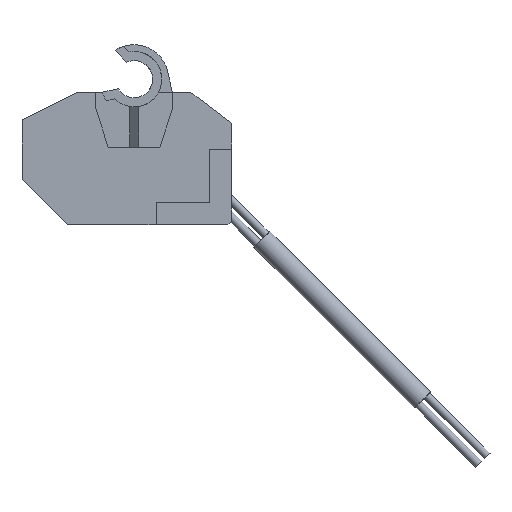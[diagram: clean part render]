
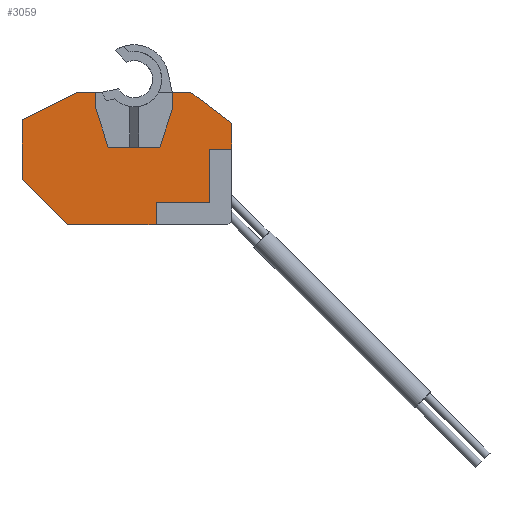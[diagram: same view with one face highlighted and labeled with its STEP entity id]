
A CAD part, left-side view. The second image highlights one B-rep face of the part: STEP entity #3059.
In plain terms, the highlighted planar face has unit normal (-1, 0, 0).
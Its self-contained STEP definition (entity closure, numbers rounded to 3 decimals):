
#44 = CARTESIAN_POINT ( 'NONE',  ( -3.35, 14.8, -1.75 ) ) ;
#59 = LINE ( 'NONE', #400, #2996 ) ;
#78 = VERTEX_POINT ( 'NONE', #2523 ) ;
#84 = VERTEX_POINT ( 'NONE', #1735 ) ;
#105 = CARTESIAN_POINT ( 'NONE',  ( -3.35, 5.05, -3.9 ) ) ;
#122 = EDGE_CURVE ( 'NONE', #3271, #2665, #2072, .T. ) ;
#167 = EDGE_CURVE ( 'NONE', #1215, #1021, #2358, .T. ) ;
#182 = CARTESIAN_POINT ( 'NONE',  ( -3.35, 14.8, -16.25 ) ) ;
#198 = LINE ( 'NONE', #1686, #2634 ) ;
#214 = CARTESIAN_POINT ( 'NONE',  ( -3.35, 14.8, -19.25 ) ) ;
#220 = ORIENTED_EDGE ( 'NONE', *, *, #1146, .F. ) ;
#232 = CARTESIAN_POINT ( 'NONE',  ( -3.35, 14.8, -1.75 ) ) ;
#236 = LINE ( 'NONE', #2712, #1518 ) ;
#248 = FACE_OUTER_BOUND ( 'NONE', #3285, .T. ) ;
#305 = VERTEX_POINT ( 'NONE', #1216 ) ;
#323 = DIRECTION ( 'NONE',  ( 0., -1., 0. ) ) ;
#400 = CARTESIAN_POINT ( 'NONE',  ( -3.35, -9.9, -19.25 ) ) ;
#402 = EDGE_CURVE ( 'NONE', #3199, #2376, #1583, .T. ) ;
#454 = LINE ( 'NONE', #1297, #974 ) ;
#468 = VECTOR ( 'NONE', #2258, 1000. ) ;
#481 = EDGE_CURVE ( 'NONE', #1620, #678, #1755, .T. ) ;
#495 = VECTOR ( 'NONE', #2383, 1000. ) ;
#501 = AXIS2_PLACEMENT_3D ( 'NONE', #2664, #3179, #323 ) ;
#535 = ORIENTED_EDGE ( 'NONE', *, *, #2987, .F. ) ;
#591 = PLANE ( 'NONE',  #501 ) ;
#628 = ORIENTED_EDGE ( 'NONE', *, *, #402, .F. ) ;
#665 = VERTEX_POINT ( 'NONE', #907 ) ;
#678 = VERTEX_POINT ( 'NONE', #2518 ) ;
#680 = CARTESIAN_POINT ( 'NONE',  ( -3.35, 14.8, -13.25 ) ) ;
#710 = CARTESIAN_POINT ( 'NONE',  ( -3.35, -9.9, -16.25 ) ) ;
#803 = ORIENTED_EDGE ( 'NONE', *, *, #2046, .F. ) ;
#831 = DIRECTION ( 'NONE',  ( 0., -1., 0. ) ) ;
#862 = ORIENTED_EDGE ( 'NONE', *, *, #1962, .T. ) ;
#907 = CARTESIAN_POINT ( 'NONE',  ( -3.35, 7.5, -1.75 ) ) ;
#921 = VERTEX_POINT ( 'NONE', #3147 ) ;
#937 = DIRECTION ( 'NONE',  ( 0., 0., -1. ) ) ;
#954 = CARTESIAN_POINT ( 'NONE',  ( -3.35, -5.05, -3.9 ) ) ;
#974 = VECTOR ( 'NONE', #2854, 1000. ) ;
#1021 = VERTEX_POINT ( 'NONE', #3171 ) ;
#1048 = CARTESIAN_POINT ( 'NONE',  ( -3.35, -9.9, -9.25 ) ) ;
#1069 = LINE ( 'NONE', #2768, #468 ) ;
#1070 = CARTESIAN_POINT ( 'NONE',  ( -3.35, 5.05, -3.9 ) ) ;
#1075 = CARTESIAN_POINT ( 'NONE',  ( -3.35, -12.9, -19.25 ) ) ;
#1109 = EDGE_CURVE ( 'NONE', #84, #305, #2930, .T. ) ;
#1140 = VECTOR ( 'NONE', #1734, 1000. ) ;
#1146 = EDGE_CURVE ( 'NONE', #78, #921, #236, .T. ) ;
#1215 = VERTEX_POINT ( 'NONE', #2157 ) ;
#1216 = CARTESIAN_POINT ( 'NONE',  ( -3.35, -7.5, -1.75 ) ) ;
#1218 = EDGE_CURVE ( 'NONE', #921, #1677, #3374, .T. ) ;
#1268 = ORIENTED_EDGE ( 'NONE', *, *, #1109, .F. ) ;
#1297 = CARTESIAN_POINT ( 'NONE',  ( -3.35, -7.5, -1.75 ) ) ;
#1316 = EDGE_CURVE ( 'NONE', #1620, #3361, #198, .T. ) ;
#1328 = VECTOR ( 'NONE', #3264, 1000. ) ;
#1384 = CARTESIAN_POINT ( 'NONE',  ( -3.35, 8.8, -19.25 ) ) ;
#1414 = DIRECTION ( 'NONE',  ( 0., -1., 0. ) ) ;
#1465 = ORIENTED_EDGE ( 'NONE', *, *, #2513, .F. ) ;
#1473 = DIRECTION ( 'NONE',  ( 0., 0., -1. ) ) ;
#1515 = CARTESIAN_POINT ( 'NONE',  ( -3.35, -12.9, -9.25 ) ) ;
#1518 = VECTOR ( 'NONE', #1414, 1000. ) ;
#1524 = ORIENTED_EDGE ( 'NONE', *, *, #2764, .F. ) ;
#1559 = EDGE_CURVE ( 'NONE', #665, #2376, #1069, .T. ) ;
#1567 = VERTEX_POINT ( 'NONE', #710 ) ;
#1583 = LINE ( 'NONE', #214, #1140 ) ;
#1620 = VERTEX_POINT ( 'NONE', #1515 ) ;
#1652 = ORIENTED_EDGE ( 'NONE', *, *, #481, .T. ) ;
#1659 = LINE ( 'NONE', #3034, #3145 ) ;
#1677 = VERTEX_POINT ( 'NONE', #2308 ) ;
#1686 = CARTESIAN_POINT ( 'NONE',  ( -3.35, 14.8, -9.25 ) ) ;
#1734 = DIRECTION ( 'NONE',  ( 0., 0., 1. ) ) ;
#1735 = CARTESIAN_POINT ( 'NONE',  ( -3.35, -5.05, -1.75 ) ) ;
#1752 = DIRECTION ( 'NONE',  ( 0., -1., 0. ) ) ;
#1755 = LINE ( 'NONE', #1075, #495 ) ;
#1818 = VECTOR ( 'NONE', #2516, 1000. ) ;
#1891 = DIRECTION ( 'NONE',  ( 0., -0.306, 0.952 ) ) ;
#1962 = EDGE_CURVE ( 'NONE', #3199, #1215, #3329, .T. ) ;
#2028 = LINE ( 'NONE', #954, #1818 ) ;
#2046 = EDGE_CURVE ( 'NONE', #3361, #1567, #59, .T. ) ;
#2065 = LINE ( 'NONE', #232, #2229 ) ;
#2068 = ORIENTED_EDGE ( 'NONE', *, *, #2722, .F. ) ;
#2072 = LINE ( 'NONE', #3333, #3274 ) ;
#2150 = VECTOR ( 'NONE', #3063, 1000. ) ;
#2157 = CARTESIAN_POINT ( 'NONE',  ( -3.35, 8.8, -19.25 ) ) ;
#2189 = VECTOR ( 'NONE', #3293, 1000. ) ;
#2190 = LINE ( 'NONE', #105, #1328 ) ;
#2196 = DIRECTION ( 'NONE',  ( 0., 0., -1. ) ) ;
#2209 = CARTESIAN_POINT ( 'NONE',  ( -3.35, 14.8, -5.35 ) ) ;
#2211 = VECTOR ( 'NONE', #831, 1000. ) ;
#2229 = VECTOR ( 'NONE', #1752, 1000. ) ;
#2258 = DIRECTION ( 'NONE',  ( 0., 0.897, -0.442 ) ) ;
#2275 = ORIENTED_EDGE ( 'NONE', *, *, #122, .F. ) ;
#2308 = CARTESIAN_POINT ( 'NONE',  ( -3.35, -5.05, -3.9 ) ) ;
#2344 = EDGE_CURVE ( 'NONE', #1567, #2732, #2949, .T. ) ;
#2358 = LINE ( 'NONE', #2811, #2150 ) ;
#2376 = VERTEX_POINT ( 'NONE', #2209 ) ;
#2383 = DIRECTION ( 'NONE',  ( 0., 0., 1. ) ) ;
#2442 = DIRECTION ( 'NONE',  ( 0., -0.707, -0.707 ) ) ;
#2499 = ORIENTED_EDGE ( 'NONE', *, *, #1316, .F. ) ;
#2500 = DIRECTION ( 'NONE',  ( 0., 1., 0. ) ) ;
#2513 = EDGE_CURVE ( 'NONE', #665, #3271, #2065, .T. ) ;
#2516 = DIRECTION ( 'NONE',  ( 0., 0., 1. ) ) ;
#2518 = CARTESIAN_POINT ( 'NONE',  ( -3.35, -12.9, -5.819 ) ) ;
#2523 = CARTESIAN_POINT ( 'NONE',  ( -3.35, 3.41, -9. ) ) ;
#2571 = ORIENTED_EDGE ( 'NONE', *, *, #2344, .F. ) ;
#2576 = ORIENTED_EDGE ( 'NONE', *, *, #1218, .F. ) ;
#2582 = EDGE_CURVE ( 'NONE', #678, #305, #454, .T. ) ;
#2626 = VECTOR ( 'NONE', #2442, 1000. ) ;
#2634 = VECTOR ( 'NONE', #2500, 1000. ) ;
#2664 = CARTESIAN_POINT ( 'NONE',  ( -3.35, 14.8, -19.25 ) ) ;
#2665 = VERTEX_POINT ( 'NONE', #1070 ) ;
#2712 = CARTESIAN_POINT ( 'NONE',  ( -3.35, 3.41, -9. ) ) ;
#2722 = EDGE_CURVE ( 'NONE', #1677, #84, #2028, .T. ) ;
#2732 = VERTEX_POINT ( 'NONE', #2766 ) ;
#2764 = EDGE_CURVE ( 'NONE', #2732, #1021, #1659, .T. ) ;
#2766 = CARTESIAN_POINT ( 'NONE',  ( -3.35, -2.9, -16.25 ) ) ;
#2768 = CARTESIAN_POINT ( 'NONE',  ( -3.35, 7.5, -1.75 ) ) ;
#2811 = CARTESIAN_POINT ( 'NONE',  ( -3.35, 14.8, -19.25 ) ) ;
#2854 = DIRECTION ( 'NONE',  ( 0., 0.799, 0.602 ) ) ;
#2885 = CARTESIAN_POINT ( 'NONE',  ( -3.35, 5.05, -1.75 ) ) ;
#2930 = LINE ( 'NONE', #44, #2211 ) ;
#2949 = LINE ( 'NONE', #182, #2189 ) ;
#2987 = EDGE_CURVE ( 'NONE', #2665, #78, #2190, .T. ) ;
#2996 = VECTOR ( 'NONE', #2196, 1000. ) ;
#3034 = CARTESIAN_POINT ( 'NONE',  ( -3.35, -2.9, -19.25 ) ) ;
#3059 = ADVANCED_FACE ( 'NONE', ( #248 ), #591, .T. ) ;
#3063 = DIRECTION ( 'NONE',  ( 0., -1., 0. ) ) ;
#3127 = VECTOR ( 'NONE', #1891, 1000. ) ;
#3145 = VECTOR ( 'NONE', #937, 1000. ) ;
#3147 = CARTESIAN_POINT ( 'NONE',  ( -3.35, -3.41, -9. ) ) ;
#3171 = CARTESIAN_POINT ( 'NONE',  ( -3.35, -2.9, -19.25 ) ) ;
#3179 = DIRECTION ( 'NONE',  ( -1., 0., 0. ) ) ;
#3192 = ORIENTED_EDGE ( 'NONE', *, *, #1559, .T. ) ;
#3193 = ORIENTED_EDGE ( 'NONE', *, *, #2582, .T. ) ;
#3199 = VERTEX_POINT ( 'NONE', #680 ) ;
#3262 = CARTESIAN_POINT ( 'NONE',  ( -3.35, -3.41, -9. ) ) ;
#3264 = DIRECTION ( 'NONE',  ( 0., -0.306, -0.952 ) ) ;
#3271 = VERTEX_POINT ( 'NONE', #2885 ) ;
#3274 = VECTOR ( 'NONE', #1473, 1000. ) ;
#3285 = EDGE_LOOP ( 'NONE', ( #535, #2275, #1465, #3192, #628, #862, #3298, #1524, #2571, #803, #2499, #1652, #3193, #1268, #2068, #2576, #220 ) ) ;
#3293 = DIRECTION ( 'NONE',  ( 0., 1., 0. ) ) ;
#3298 = ORIENTED_EDGE ( 'NONE', *, *, #167, .T. ) ;
#3329 = LINE ( 'NONE', #1384, #2626 ) ;
#3333 = CARTESIAN_POINT ( 'NONE',  ( -3.35, 5.05, -1.75 ) ) ;
#3361 = VERTEX_POINT ( 'NONE', #1048 ) ;
#3374 = LINE ( 'NONE', #3262, #3127 ) ;
